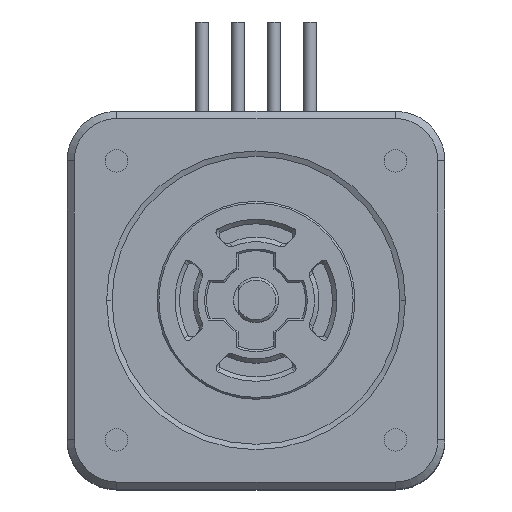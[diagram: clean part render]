
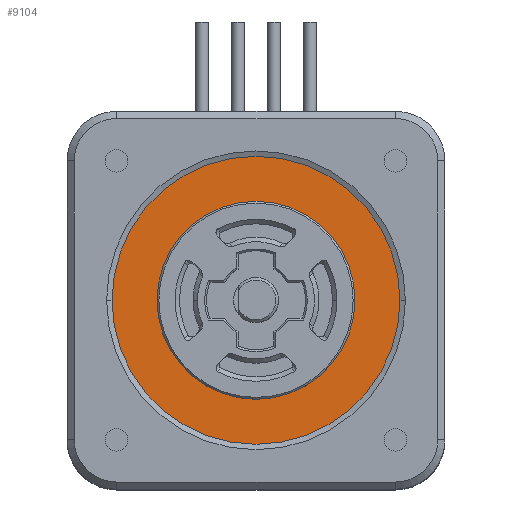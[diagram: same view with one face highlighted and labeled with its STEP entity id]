
A CAD part, top view. The second image highlights one B-rep face of the part: STEP entity #9104.
In plain terms, the highlighted planar face has unit normal (0, 0, 1).
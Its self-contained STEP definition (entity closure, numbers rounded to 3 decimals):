
#191 = PLANE ( 'NONE',  #6567 ) ;
#192 = CARTESIAN_POINT ( 'NONE',  ( 0., 0., -0.3 ) ) ;
#193 = DIRECTION ( 'NONE',  ( 0., 0., 1. ) ) ;
#194 = DIRECTION ( 'NONE',  ( 1., 0., 0. ) ) ;
#282 = CARTESIAN_POINT ( 'NONE',  ( 0., 0., -0.3 ) ) ;
#283 = DIRECTION ( 'NONE',  ( 0., 0., 1. ) ) ;
#284 = DIRECTION ( 'NONE',  ( 1., 0., 0. ) ) ;
#458 = CARTESIAN_POINT ( 'NONE',  ( 0., 0., -0.3 ) ) ;
#459 = DIRECTION ( 'NONE',  ( 0., 0., 1. ) ) ;
#460 = DIRECTION ( 'NONE',  ( 1., 0., 0. ) ) ;
#973 = CARTESIAN_POINT ( 'NONE',  ( -11., 0., -0.3 ) ) ;
#1394 = EDGE_LOOP ( 'NONE', ( #9972, #9976 ) ) ;
#1529 = EDGE_LOOP ( 'NONE', ( #9971, #9974 ) ) ;
#1736 = CARTESIAN_POINT ( 'NONE',  ( 11., 0., -0.3 ) ) ;
#1738 = CARTESIAN_POINT ( 'NONE',  ( -16., 0., -0.3 ) ) ;
#1915 = CARTESIAN_POINT ( 'NONE',  ( 16., 0., -0.3 ) ) ;
#2239 = CIRCLE ( 'NONE', #2242, 11. ) ;
#2242 = AXIS2_PLACEMENT_3D ( 'NONE', #458, #459, #460 ) ;
#2954 = EDGE_CURVE ( 'NONE', #10028, #10215, #6343, .T. ) ;
#2955 = EDGE_CURVE ( 'NONE', #10394, #10217, #6386, .T. ) ;
#5561 = DIRECTION ( 'NONE',  ( 1., 0., 0. ) ) ;
#5596 = DIRECTION ( 'NONE',  ( 0., 0., 1. ) ) ;
#5609 = CARTESIAN_POINT ( 'NONE',  ( 0., 0., -0.3 ) ) ;
#5673 = CARTESIAN_POINT ( 'NONE',  ( 0., 0., -0.3 ) ) ;
#5719 = DIRECTION ( 'NONE',  ( 1., 0., 0. ) ) ;
#5841 = DIRECTION ( 'NONE',  ( 0., 0., 1. ) ) ;
#6343 = CIRCLE ( 'NONE', #6355, 11. ) ;
#6355 = AXIS2_PLACEMENT_3D ( 'NONE', #5673, #5841, #5719 ) ;
#6386 = CIRCLE ( 'NONE', #6470, 16. ) ;
#6470 = AXIS2_PLACEMENT_3D ( 'NONE', #5609, #5596, #5561 ) ;
#6510 = AXIS2_PLACEMENT_3D ( 'NONE', #282, #283, #284 ) ;
#6515 = CIRCLE ( 'NONE', #6510, 16. ) ;
#6567 = AXIS2_PLACEMENT_3D ( 'NONE', #192, #193, #194 ) ;
#7251 = FACE_OUTER_BOUND ( 'NONE', #1394, .T. ) ;
#7912 = FACE_BOUND ( 'NONE', #1529, .T. ) ;
#9104 = ADVANCED_FACE ( 'NONE', ( #7912, #7251 ), #191, .T. ) ;
#9133 = EDGE_CURVE ( 'NONE', #10217, #10394, #6515, .T. ) ;
#9191 = EDGE_CURVE ( 'NONE', #10215, #10028, #2239, .T. ) ;
#9971 = ORIENTED_EDGE ( 'NONE', *, *, #2954, .F. ) ;
#9972 = ORIENTED_EDGE ( 'NONE', *, *, #2955, .T. ) ;
#9974 = ORIENTED_EDGE ( 'NONE', *, *, #9191, .F. ) ;
#9976 = ORIENTED_EDGE ( 'NONE', *, *, #9133, .T. ) ;
#10028 = VERTEX_POINT ( 'NONE', #973 ) ;
#10215 = VERTEX_POINT ( 'NONE', #1736 ) ;
#10217 = VERTEX_POINT ( 'NONE', #1738 ) ;
#10394 = VERTEX_POINT ( 'NONE', #1915 ) ;
